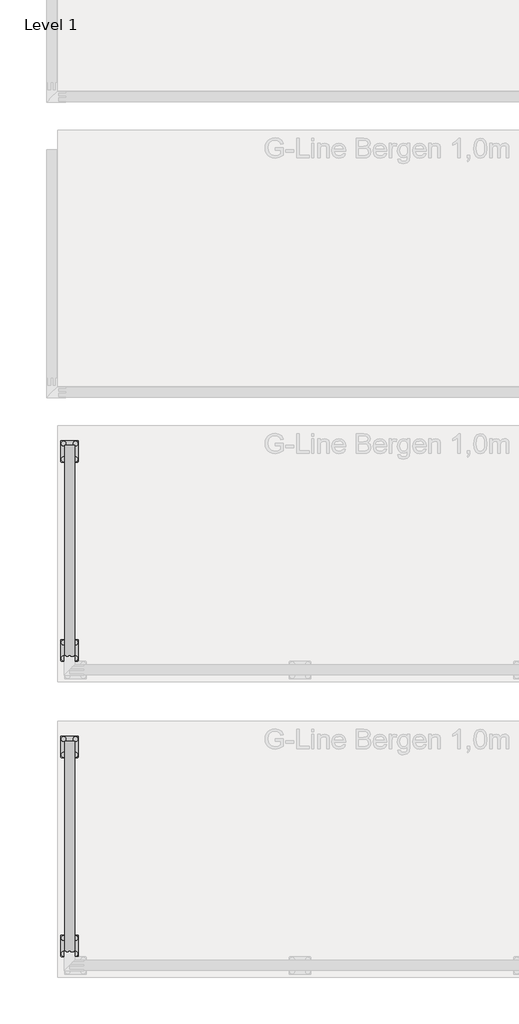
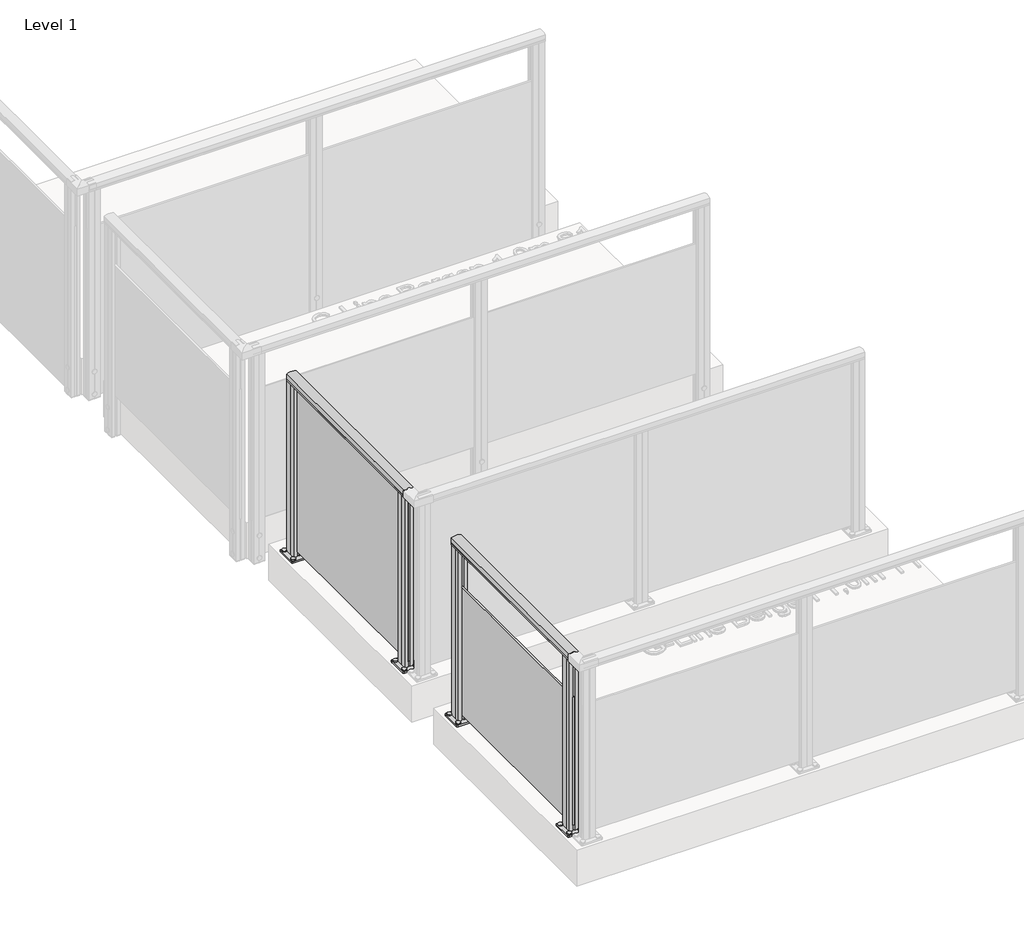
# One storey, part 17 of 66: 2 railings.
"""IFC4 building model written with IfcOpenShell, lengths in millimetres."""

from ifc_helpers import new_model, si_unit, point, frame, frame_2d, origin, origin_with_axes, place, context, project, spatial, polyline, circle_curve, trimmed, segment, composite_curve, outline, extrude, element, save

model = new_model("IFC4")

# Units and contexts
model_context = context("Model", 3, world=origin())
ifc_project = project(units=[si_unit("LENGTHUNIT", "METRE", prefix="MILLI")], contexts=[model_context])

# Site, building, storey
site = spatial("IfcSite", under=ifc_project)
building = spatial("IfcBuilding", under=site)
storey = spatial("IfcBuildingStorey", under=building, Name="Level 1", Elevation=0.0)

# Railings
placement = place(None, origin())
element("IfcRailing", 1, ObjectType="G-Line Bergen 1,0m T1", at=placement, inside=storey, context=model_context, shape_type="SweptSolid", body=[
    extrude(outline(composite_curve([segment(trimmed(circle_curve(frame_2d((942.6785502, 4557.2511266)), 57.3235687), [point((994.1390059, 4582.5060869))], [point((994.1342258, 4531.9864286))], False, "CARTESIAN"), True, "CONTINUOUS"), segment(polyline([(994.1342258, 4531.9864286), (967.0235023, 4531.9864286), (966.4415706, 4532.5683604), (965.8194895, 4531.9462793), (957.2498847, 4531.9462793), (957.2498847, 4533.7512322), (980.4998829, 4533.7512322), (980.4998829, 4580.7462783), (957.2498847, 4580.7462783), (957.2498847, 4582.5060869), (965.9694895, 4582.5060869), (966.5842725, 4581.8913039), (967.1990555, 4582.5060869), (994.1390059, 4582.5060869)]), True, "CONTINUOUS")], self_intersect=False)), frame((0.0, -4351.1184021, 0.0), z_axis=(0.0, 1.0, 0.0), x_axis=(0.0, 0.0, 1.0)), (0.0, 0.0, 1.0), 1070.0),
    extrude(outline(polyline([(4552.1463105, -3281.1184021), (4560.9063105, -3281.1184021), (4560.9063105, -4351.1184021), (4552.1463105, -4351.1184021), (4552.1463105, -3281.1184021)])), frame((0.0, 0.0, 40.0), z_axis=(0.0, 0.0, 1.0), x_axis=(1.0, 0.0, 0.0)), (0.0, 0.0, 1.0), 710.0),
    extrude(outline(composite_curve([segment(trimmed(circle_curve(frame_2d((4526.5263105, -4281.1184021)), 11.9621755), [point((4514.564135, -4281.1184021))], [point((4538.488486, -4281.1184021))], False, "CARTESIAN"), True, "CONTINUOUS"), segment(trimmed(circle_curve(frame_2d((4526.5263105, -4281.1184021)), 11.9621755), [point((4538.488486, -4281.1184021))], [point((4514.564135, -4281.1184021))], False, "CARTESIAN"), True, "CONTINUOUS")], self_intersect=False)), frame((0.0, 0.0, 10.0), z_axis=(0.0, 0.0, 1.0), x_axis=(1.0, 0.0, 0.0)), (0.0, 0.0, 1.0), 5.0),
    extrude(outline(composite_curve([segment(trimmed(circle_curve(frame_2d((4586.5263105, -4281.1184021)), 11.9621755), [point((4574.564135, -4281.1184021))], [point((4598.488486, -4281.1184021))], False, "CARTESIAN"), True, "CONTINUOUS"), segment(trimmed(circle_curve(frame_2d((4586.5263105, -4281.1184021)), 11.9621755), [point((4598.488486, -4281.1184021))], [point((4574.564135, -4281.1184021))], False, "CARTESIAN"), True, "CONTINUOUS")], self_intersect=False)), frame((0.0, 0.0, 10.0), z_axis=(0.0, 0.0, 1.0), x_axis=(1.0, 0.0, 0.0)), (0.0, 0.0, 1.0), 5.0),
    extrude(outline(composite_curve([segment(trimmed(circle_curve(frame_2d((4526.5263105, -4361.1184021)), 11.9621755), [point((4514.564135, -4361.1184021))], [point((4538.488486, -4361.1184021))], False, "CARTESIAN"), True, "CONTINUOUS"), segment(trimmed(circle_curve(frame_2d((4526.5263105, -4361.1184021)), 11.9621755), [point((4538.488486, -4361.1184021))], [point((4514.564135, -4361.1184021))], False, "CARTESIAN"), True, "CONTINUOUS")], self_intersect=False)), frame((0.0, 0.0, 10.0), z_axis=(0.0, 0.0, 1.0), x_axis=(1.0, 0.0, 0.0)), (0.0, 0.0, 1.0), 5.0),
    extrude(outline(composite_curve([segment(trimmed(circle_curve(frame_2d((4586.5263105, -4361.1184021)), 11.9621755), [point((4574.564135, -4361.1184021))], [point((4598.488486, -4361.1184021))], False, "CARTESIAN"), True, "CONTINUOUS"), segment(trimmed(circle_curve(frame_2d((4586.5263105, -4361.1184021)), 11.9621755), [point((4598.488486, -4361.1184021))], [point((4574.564135, -4361.1184021))], False, "CARTESIAN"), True, "CONTINUOUS")], self_intersect=False)), frame((0.0, 0.0, 10.0), z_axis=(0.0, 0.0, 1.0), x_axis=(1.0, 0.0, 0.0)), (0.0, 0.0, 1.0), 5.0),
    extrude(outline(composite_curve([segment(trimmed(circle_curve(frame_2d((4596.5263105, -4271.1184021)), 5.0), [point((4596.5263105, -4266.1184021))], [point((4601.5263105, -4271.1184021))], False, "CARTESIAN"), True, "CONTINUOUS"), segment(polyline([(4601.5263105, -4271.1184021), (4601.5263105, -4371.1184021)]), True, "CONTINUOUS"), segment(trimmed(circle_curve(frame_2d((4596.5263105, -4371.1184021)), 5.0), [point((4601.5263105, -4371.1184021))], [point((4596.5263105, -4376.1184021))], False, "CARTESIAN"), True, "CONTINUOUS"), segment(polyline([(4596.5263105, -4376.1184021), (4516.5263105, -4376.1184021)]), True, "CONTINUOUS"), segment(trimmed(circle_curve(frame_2d((4516.5263105, -4371.1184021)), 5.0), [point((4516.5263105, -4376.1184021))], [point((4511.5263105, -4371.1184021))], False, "CARTESIAN"), True, "CONTINUOUS"), segment(polyline([(4511.5263105, -4371.1184021), (4511.5263105, -4271.1184021)]), True, "CONTINUOUS"), segment(trimmed(circle_curve(frame_2d((4516.5263105, -4271.1184021)), 5.0), [point((4511.5263105, -4271.1184021))], [point((4516.5263105, -4266.1184021))], False, "CARTESIAN"), True, "CONTINUOUS"), segment(polyline([(4516.5263105, -4266.1184021), (4596.5263105, -4266.1184021)]), True, "CONTINUOUS")], self_intersect=False), holes=[composite_curve([segment(trimmed(circle_curve(frame_2d((4586.5263105, -4281.1184021)), 6.25), [point((4580.2763105, -4281.1184021))], [point((4592.7763105, -4281.1184021))], True, "CARTESIAN"), True, "CONTINUOUS"), segment(trimmed(circle_curve(frame_2d((4586.5263105, -4281.1184021)), 6.25), [point((4592.7763105, -4281.1184021))], [point((4580.2763105, -4281.1184021))], True, "CARTESIAN"), True, "CONTINUOUS")], self_intersect=False), composite_curve([segment(trimmed(circle_curve(frame_2d((4526.5263105, -4281.1184021)), 6.25), [point((4520.2763105, -4281.1184021))], [point((4532.7763105, -4281.1184021))], True, "CARTESIAN"), True, "CONTINUOUS"), segment(trimmed(circle_curve(frame_2d((4526.5263105, -4281.1184021)), 6.25), [point((4532.7763105, -4281.1184021))], [point((4520.2763105, -4281.1184021))], True, "CARTESIAN"), True, "CONTINUOUS")], self_intersect=False), composite_curve([segment(trimmed(circle_curve(frame_2d((4526.5263105, -4361.1184021)), 6.25), [point((4520.2763105, -4361.1184021))], [point((4532.7763105, -4361.1184021))], True, "CARTESIAN"), True, "CONTINUOUS"), segment(trimmed(circle_curve(frame_2d((4526.5263105, -4361.1184021)), 6.25), [point((4532.7763105, -4361.1184021))], [point((4520.2763105, -4361.1184021))], True, "CARTESIAN"), True, "CONTINUOUS")], self_intersect=False), composite_curve([segment(trimmed(circle_curve(frame_2d((4586.5263105, -4361.1184021)), 6.25), [point((4580.2763105, -4361.1184021))], [point((4592.7763105, -4361.1184021))], True, "CARTESIAN"), True, "CONTINUOUS"), segment(trimmed(circle_curve(frame_2d((4586.5263105, -4361.1184021)), 6.25), [point((4592.7763105, -4361.1184021))], [point((4580.2763105, -4361.1184021))], True, "CARTESIAN"), True, "CONTINUOUS")], self_intersect=False)]), origin_with_axes(), (0.0, 0.0, 1.0), 10.0),
    extrude(outline(polyline([(4552.1804485, -4351.116809), (4534.0354487, -4351.1194812), (4534.0311828, -4322.1524942), (4535.0593241, -4321.12405), (4534.0709345, -4320.1359515), (4534.0666613, -4291.119476), (4552.1716124, -4291.1168097), (4552.1741896, -4308.6168095), (4560.9341895, -4308.6155194), (4560.9316123, -4291.1155196), (4579.0266121, -4291.1128548), (4579.030878, -4320.0798417), (4578.1125457, -4321.1177096), (4578.9909678, -4321.995873), (4578.9952559, -4351.11286), (4560.9404484, -4351.1155189), (4560.9378712, -4333.6155191), (4552.1778713, -4333.6168092), (4552.1804485, -4351.116809)]), holes=[polyline([(4577.0323262, -4312.3191871), (4536.0297347, -4312.3191871), (4536.0297347, -4329.9131488), (4577.0323262, -4329.9131488), (4577.0323262, -4312.3191871)]), polyline([(4550.17444, -4293.1191873), (4536.0269071, -4293.1191873), (4536.0269071, -4310.317104), (4550.17444, -4310.317104), (4550.17444, -4293.1191873)]), polyline([(4577.0323262, -4293.115225), (4562.9319068, -4293.115225), (4562.9319068, -4310.3131487), (4577.0323262, -4310.3131487), (4577.0323262, -4293.115225)]), polyline([(4550.180154, -4331.9191868), (4536.0326211, -4331.9191868), (4536.0326211, -4349.1171035), (4550.180154, -4349.1171035), (4550.180154, -4331.9191868)]), polyline([(4577.0851537, -4331.9152246), (4562.9376209, -4331.9152246), (4562.9376209, -4349.1131413), (4577.0851537, -4349.1131413), (4577.0851537, -4331.9152246)])]), frame((0.0, 0.0, 10.0), z_axis=(0.0, 0.0, 1.0), x_axis=(1.0, 0.0, 0.0)), (0.0, 0.0, 1.0), 971.0),
    extrude(outline(composite_curve([segment(trimmed(circle_curve(frame_2d((4526.5263105, -3271.1184021)), 11.9621755), [point((4514.564135, -3271.1184021))], [point((4538.488486, -3271.1184021))], False, "CARTESIAN"), True, "CONTINUOUS"), segment(trimmed(circle_curve(frame_2d((4526.5263105, -3271.1184021)), 11.9621755), [point((4538.488486, -3271.1184021))], [point((4514.564135, -3271.1184021))], False, "CARTESIAN"), True, "CONTINUOUS")], self_intersect=False)), frame((0.0, 0.0, 10.0), z_axis=(0.0, 0.0, 1.0), x_axis=(1.0, 0.0, 0.0)), (0.0, 0.0, 1.0), 5.0),
    extrude(outline(composite_curve([segment(trimmed(circle_curve(frame_2d((4586.5263105, -3271.1184021)), 11.9621755), [point((4574.564135, -3271.1184021))], [point((4598.488486, -3271.1184021))], False, "CARTESIAN"), True, "CONTINUOUS"), segment(trimmed(circle_curve(frame_2d((4586.5263105, -3271.1184021)), 11.9621755), [point((4598.488486, -3271.1184021))], [point((4574.564135, -3271.1184021))], False, "CARTESIAN"), True, "CONTINUOUS")], self_intersect=False)), frame((0.0, 0.0, 10.0), z_axis=(0.0, 0.0, 1.0), x_axis=(1.0, 0.0, 0.0)), (0.0, 0.0, 1.0), 5.0),
    extrude(outline(composite_curve([segment(trimmed(circle_curve(frame_2d((4526.5263105, -3351.1184021)), 11.9621755), [point((4514.564135, -3351.1184021))], [point((4538.488486, -3351.1184021))], False, "CARTESIAN"), True, "CONTINUOUS"), segment(trimmed(circle_curve(frame_2d((4526.5263105, -3351.1184021)), 11.9621755), [point((4538.488486, -3351.1184021))], [point((4514.564135, -3351.1184021))], False, "CARTESIAN"), True, "CONTINUOUS")], self_intersect=False)), frame((0.0, 0.0, 10.0), z_axis=(0.0, 0.0, 1.0), x_axis=(1.0, 0.0, 0.0)), (0.0, 0.0, 1.0), 5.0),
    extrude(outline(composite_curve([segment(trimmed(circle_curve(frame_2d((4586.5263105, -3351.1184021)), 11.9621755), [point((4574.564135, -3351.1184021))], [point((4598.488486, -3351.1184021))], False, "CARTESIAN"), True, "CONTINUOUS"), segment(trimmed(circle_curve(frame_2d((4586.5263105, -3351.1184021)), 11.9621755), [point((4598.488486, -3351.1184021))], [point((4574.564135, -3351.1184021))], False, "CARTESIAN"), True, "CONTINUOUS")], self_intersect=False)), frame((0.0, 0.0, 10.0), z_axis=(0.0, 0.0, 1.0), x_axis=(1.0, 0.0, 0.0)), (0.0, 0.0, 1.0), 5.0),
    extrude(outline(composite_curve([segment(trimmed(circle_curve(frame_2d((4596.5263105, -3261.1184021)), 5.0), [point((4596.5263105, -3256.1184021))], [point((4601.5263105, -3261.1184021))], False, "CARTESIAN"), True, "CONTINUOUS"), segment(polyline([(4601.5263105, -3261.1184021), (4601.5263105, -3361.1184021)]), True, "CONTINUOUS"), segment(trimmed(circle_curve(frame_2d((4596.5263105, -3361.1184021)), 5.0), [point((4601.5263105, -3361.1184021))], [point((4596.5263105, -3366.1184021))], False, "CARTESIAN"), True, "CONTINUOUS"), segment(polyline([(4596.5263105, -3366.1184021), (4516.5263105, -3366.1184021)]), True, "CONTINUOUS"), segment(trimmed(circle_curve(frame_2d((4516.5263105, -3361.1184021)), 5.0), [point((4516.5263105, -3366.1184021))], [point((4511.5263105, -3361.1184021))], False, "CARTESIAN"), True, "CONTINUOUS"), segment(polyline([(4511.5263105, -3361.1184021), (4511.5263105, -3261.1184021)]), True, "CONTINUOUS"), segment(trimmed(circle_curve(frame_2d((4516.5263105, -3261.1184021)), 5.0), [point((4511.5263105, -3261.1184021))], [point((4516.5263105, -3256.1184021))], False, "CARTESIAN"), True, "CONTINUOUS"), segment(polyline([(4516.5263105, -3256.1184021), (4596.5263105, -3256.1184021)]), True, "CONTINUOUS")], self_intersect=False), holes=[composite_curve([segment(trimmed(circle_curve(frame_2d((4586.5263105, -3271.1184021)), 6.25), [point((4580.2763105, -3271.1184021))], [point((4592.7763105, -3271.1184021))], True, "CARTESIAN"), True, "CONTINUOUS"), segment(trimmed(circle_curve(frame_2d((4586.5263105, -3271.1184021)), 6.25), [point((4592.7763105, -3271.1184021))], [point((4580.2763105, -3271.1184021))], True, "CARTESIAN"), True, "CONTINUOUS")], self_intersect=False), composite_curve([segment(trimmed(circle_curve(frame_2d((4526.5263105, -3271.1184021)), 6.25), [point((4520.2763105, -3271.1184021))], [point((4532.7763105, -3271.1184021))], True, "CARTESIAN"), True, "CONTINUOUS"), segment(trimmed(circle_curve(frame_2d((4526.5263105, -3271.1184021)), 6.25), [point((4532.7763105, -3271.1184021))], [point((4520.2763105, -3271.1184021))], True, "CARTESIAN"), True, "CONTINUOUS")], self_intersect=False), composite_curve([segment(trimmed(circle_curve(frame_2d((4526.5263105, -3351.1184021)), 6.25), [point((4520.2763105, -3351.1184021))], [point((4532.7763105, -3351.1184021))], True, "CARTESIAN"), True, "CONTINUOUS"), segment(trimmed(circle_curve(frame_2d((4526.5263105, -3351.1184021)), 6.25), [point((4532.7763105, -3351.1184021))], [point((4520.2763105, -3351.1184021))], True, "CARTESIAN"), True, "CONTINUOUS")], self_intersect=False), composite_curve([segment(trimmed(circle_curve(frame_2d((4586.5263105, -3351.1184021)), 6.25), [point((4580.2763105, -3351.1184021))], [point((4592.7763105, -3351.1184021))], True, "CARTESIAN"), True, "CONTINUOUS"), segment(trimmed(circle_curve(frame_2d((4586.5263105, -3351.1184021)), 6.25), [point((4592.7763105, -3351.1184021))], [point((4580.2763105, -3351.1184021))], True, "CARTESIAN"), True, "CONTINUOUS")], self_intersect=False)]), origin_with_axes(), (0.0, 0.0, 1.0), 10.0),
    extrude(outline(polyline([(4552.1804485, -3341.116809), (4534.0354487, -3341.1194812), (4534.0311828, -3312.1524942), (4535.0593241, -3311.12405), (4534.0709345, -3310.1359515), (4534.0666613, -3281.119476), (4552.1716124, -3281.1168097), (4552.1741896, -3298.6168095), (4560.9341895, -3298.6155194), (4560.9316123, -3281.1155196), (4579.0266121, -3281.1128548), (4579.030878, -3310.0798417), (4578.1125457, -3311.1177096), (4578.9909678, -3311.995873), (4578.9952559, -3341.11286), (4560.9404484, -3341.1155189), (4560.9378712, -3323.6155191), (4552.1778713, -3323.6168092), (4552.1804485, -3341.116809)]), holes=[polyline([(4577.0323262, -3302.3191871), (4536.0297347, -3302.3191871), (4536.0297347, -3319.9131488), (4577.0323262, -3319.9131488), (4577.0323262, -3302.3191871)]), polyline([(4550.17444, -3283.1191873), (4536.0269071, -3283.1191873), (4536.0269071, -3300.317104), (4550.17444, -3300.317104), (4550.17444, -3283.1191873)]), polyline([(4577.0323262, -3283.115225), (4562.9319068, -3283.115225), (4562.9319068, -3300.3131487), (4577.0323262, -3300.3131487), (4577.0323262, -3283.115225)]), polyline([(4550.180154, -3321.9191868), (4536.0326211, -3321.9191868), (4536.0326211, -3339.1171035), (4550.180154, -3339.1171035), (4550.180154, -3321.9191868)]), polyline([(4577.0851537, -3321.9152246), (4562.9376209, -3321.9152246), (4562.9376209, -3339.1131413), (4577.0851537, -3339.1131413), (4577.0851537, -3321.9152246)])]), frame((0.0, 0.0, 10.0), z_axis=(0.0, 0.0, 1.0), x_axis=(1.0, 0.0, 0.0)), (0.0, 0.0, 1.0), 971.0),
])
element("IfcRailing", 2, ObjectType="G-Line Bergen 1,0m T3", at=placement, inside=storey, context=model_context, shape_type="SweptSolid", body=[
    extrude(outline(composite_curve([segment(trimmed(circle_curve(frame_2d((942.6785502, 4557.2511266)), 57.3235687), [point((994.1390059, 4582.5060869))], [point((994.1342258, 4531.9864286))], False, "CARTESIAN"), True, "CONTINUOUS"), segment(polyline([(994.1342258, 4531.9864286), (967.0235023, 4531.9864286), (966.4415706, 4532.5683604), (965.8194895, 4531.9462793), (957.2498847, 4531.9462793), (957.2498847, 4533.7512322), (980.4998829, 4533.7512322), (980.4998829, 4580.7462783), (957.2498847, 4580.7462783), (957.2498847, 4582.5060869), (965.9694895, 4582.5060869), (966.5842725, 4581.8913039), (967.1990555, 4582.5060869), (994.1390059, 4582.5060869)]), True, "CONTINUOUS")], self_intersect=False)), frame((0.0, -2851.1184021, 0.0), z_axis=(0.0, 1.0, 0.0), x_axis=(0.0, 0.0, 1.0)), (0.0, 0.0, 1.0), 1070.0),
    extrude(outline(polyline([(4552.1463105, -1781.1184021), (4560.9063105, -1781.1184021), (4560.9063105, -2851.1184021), (4552.1463105, -2851.1184021), (4552.1463105, -1781.1184021)])), frame((0.0, 0.0, 40.0), z_axis=(0.0, 0.0, 1.0), x_axis=(1.0, 0.0, 0.0)), (0.0, 0.0, 1.0), 940.0),
    extrude(outline(composite_curve([segment(trimmed(circle_curve(frame_2d((4526.5263105, -2781.1184021)), 11.9621755), [point((4514.564135, -2781.1184021))], [point((4538.488486, -2781.1184021))], False, "CARTESIAN"), True, "CONTINUOUS"), segment(trimmed(circle_curve(frame_2d((4526.5263105, -2781.1184021)), 11.9621755), [point((4538.488486, -2781.1184021))], [point((4514.564135, -2781.1184021))], False, "CARTESIAN"), True, "CONTINUOUS")], self_intersect=False)), frame((0.0, 0.0, 10.0), z_axis=(0.0, 0.0, 1.0), x_axis=(1.0, 0.0, 0.0)), (0.0, 0.0, 1.0), 5.0),
    extrude(outline(composite_curve([segment(trimmed(circle_curve(frame_2d((4586.5263105, -2781.1184021)), 11.9621755), [point((4574.564135, -2781.1184021))], [point((4598.488486, -2781.1184021))], False, "CARTESIAN"), True, "CONTINUOUS"), segment(trimmed(circle_curve(frame_2d((4586.5263105, -2781.1184021)), 11.9621755), [point((4598.488486, -2781.1184021))], [point((4574.564135, -2781.1184021))], False, "CARTESIAN"), True, "CONTINUOUS")], self_intersect=False)), frame((0.0, 0.0, 10.0), z_axis=(0.0, 0.0, 1.0), x_axis=(1.0, 0.0, 0.0)), (0.0, 0.0, 1.0), 5.0),
    extrude(outline(composite_curve([segment(trimmed(circle_curve(frame_2d((4526.5263105, -2861.1184021)), 11.9621755), [point((4514.564135, -2861.1184021))], [point((4538.488486, -2861.1184021))], False, "CARTESIAN"), True, "CONTINUOUS"), segment(trimmed(circle_curve(frame_2d((4526.5263105, -2861.1184021)), 11.9621755), [point((4538.488486, -2861.1184021))], [point((4514.564135, -2861.1184021))], False, "CARTESIAN"), True, "CONTINUOUS")], self_intersect=False)), frame((0.0, 0.0, 10.0), z_axis=(0.0, 0.0, 1.0), x_axis=(1.0, 0.0, 0.0)), (0.0, 0.0, 1.0), 5.0),
    extrude(outline(composite_curve([segment(trimmed(circle_curve(frame_2d((4586.5263105, -2861.1184021)), 11.9621755), [point((4574.564135, -2861.1184021))], [point((4598.488486, -2861.1184021))], False, "CARTESIAN"), True, "CONTINUOUS"), segment(trimmed(circle_curve(frame_2d((4586.5263105, -2861.1184021)), 11.9621755), [point((4598.488486, -2861.1184021))], [point((4574.564135, -2861.1184021))], False, "CARTESIAN"), True, "CONTINUOUS")], self_intersect=False)), frame((0.0, 0.0, 10.0), z_axis=(0.0, 0.0, 1.0), x_axis=(1.0, 0.0, 0.0)), (0.0, 0.0, 1.0), 5.0),
    extrude(outline(composite_curve([segment(trimmed(circle_curve(frame_2d((4596.5263105, -2771.1184021)), 5.0), [point((4596.5263105, -2766.1184021))], [point((4601.5263105, -2771.1184021))], False, "CARTESIAN"), True, "CONTINUOUS"), segment(polyline([(4601.5263105, -2771.1184021), (4601.5263105, -2871.1184021)]), True, "CONTINUOUS"), segment(trimmed(circle_curve(frame_2d((4596.5263105, -2871.1184021)), 5.0), [point((4601.5263105, -2871.1184021))], [point((4596.5263105, -2876.1184021))], False, "CARTESIAN"), True, "CONTINUOUS"), segment(polyline([(4596.5263105, -2876.1184021), (4516.5263105, -2876.1184021)]), True, "CONTINUOUS"), segment(trimmed(circle_curve(frame_2d((4516.5263105, -2871.1184021)), 5.0), [point((4516.5263105, -2876.1184021))], [point((4511.5263105, -2871.1184021))], False, "CARTESIAN"), True, "CONTINUOUS"), segment(polyline([(4511.5263105, -2871.1184021), (4511.5263105, -2771.1184021)]), True, "CONTINUOUS"), segment(trimmed(circle_curve(frame_2d((4516.5263105, -2771.1184021)), 5.0), [point((4511.5263105, -2771.1184021))], [point((4516.5263105, -2766.1184021))], False, "CARTESIAN"), True, "CONTINUOUS"), segment(polyline([(4516.5263105, -2766.1184021), (4596.5263105, -2766.1184021)]), True, "CONTINUOUS")], self_intersect=False), holes=[composite_curve([segment(trimmed(circle_curve(frame_2d((4586.5263105, -2781.1184021)), 6.25), [point((4580.2763105, -2781.1184021))], [point((4592.7763105, -2781.1184021))], True, "CARTESIAN"), True, "CONTINUOUS"), segment(trimmed(circle_curve(frame_2d((4586.5263105, -2781.1184021)), 6.25), [point((4592.7763105, -2781.1184021))], [point((4580.2763105, -2781.1184021))], True, "CARTESIAN"), True, "CONTINUOUS")], self_intersect=False), composite_curve([segment(trimmed(circle_curve(frame_2d((4526.5263105, -2781.1184021)), 6.25), [point((4520.2763105, -2781.1184021))], [point((4532.7763105, -2781.1184021))], True, "CARTESIAN"), True, "CONTINUOUS"), segment(trimmed(circle_curve(frame_2d((4526.5263105, -2781.1184021)), 6.25), [point((4532.7763105, -2781.1184021))], [point((4520.2763105, -2781.1184021))], True, "CARTESIAN"), True, "CONTINUOUS")], self_intersect=False), composite_curve([segment(trimmed(circle_curve(frame_2d((4526.5263105, -2861.1184021)), 6.25), [point((4520.2763105, -2861.1184021))], [point((4532.7763105, -2861.1184021))], True, "CARTESIAN"), True, "CONTINUOUS"), segment(trimmed(circle_curve(frame_2d((4526.5263105, -2861.1184021)), 6.25), [point((4532.7763105, -2861.1184021))], [point((4520.2763105, -2861.1184021))], True, "CARTESIAN"), True, "CONTINUOUS")], self_intersect=False), composite_curve([segment(trimmed(circle_curve(frame_2d((4586.5263105, -2861.1184021)), 6.25), [point((4580.2763105, -2861.1184021))], [point((4592.7763105, -2861.1184021))], True, "CARTESIAN"), True, "CONTINUOUS"), segment(trimmed(circle_curve(frame_2d((4586.5263105, -2861.1184021)), 6.25), [point((4592.7763105, -2861.1184021))], [point((4580.2763105, -2861.1184021))], True, "CARTESIAN"), True, "CONTINUOUS")], self_intersect=False)]), origin_with_axes(), (0.0, 0.0, 1.0), 10.0),
    extrude(outline(polyline([(4552.1804485, -2851.116809), (4534.0354487, -2851.1194812), (4534.0311828, -2822.1524942), (4535.0593241, -2821.12405), (4534.0709345, -2820.1359515), (4534.0666613, -2791.119476), (4552.1716124, -2791.1168097), (4552.1741896, -2808.6168095), (4560.9341895, -2808.6155194), (4560.9316123, -2791.1155196), (4579.0266121, -2791.1128548), (4579.030878, -2820.0798417), (4578.1125457, -2821.1177096), (4578.9909678, -2821.995873), (4578.9952559, -2851.11286), (4560.9404484, -2851.1155189), (4560.9378712, -2833.6155191), (4552.1778713, -2833.6168092), (4552.1804485, -2851.116809)]), holes=[polyline([(4577.0323262, -2812.3191871), (4536.0297347, -2812.3191871), (4536.0297347, -2829.9131488), (4577.0323262, -2829.9131488), (4577.0323262, -2812.3191871)]), polyline([(4550.17444, -2793.1191873), (4536.0269071, -2793.1191873), (4536.0269071, -2810.317104), (4550.17444, -2810.317104), (4550.17444, -2793.1191873)]), polyline([(4577.0323262, -2793.115225), (4562.9319068, -2793.115225), (4562.9319068, -2810.3131487), (4577.0323262, -2810.3131487), (4577.0323262, -2793.115225)]), polyline([(4550.180154, -2831.9191868), (4536.0326211, -2831.9191868), (4536.0326211, -2849.1171035), (4550.180154, -2849.1171035), (4550.180154, -2831.9191868)]), polyline([(4577.0851537, -2831.9152246), (4562.9376209, -2831.9152246), (4562.9376209, -2849.1131413), (4577.0851537, -2849.1131413), (4577.0851537, -2831.9152246)])]), frame((0.0, 0.0, 10.0), z_axis=(0.0, 0.0, 1.0), x_axis=(1.0, 0.0, 0.0)), (0.0, 0.0, 1.0), 971.0),
    extrude(outline(composite_curve([segment(trimmed(circle_curve(frame_2d((4526.5263105, -1771.1184021)), 11.9621755), [point((4514.564135, -1771.1184021))], [point((4538.488486, -1771.1184021))], False, "CARTESIAN"), True, "CONTINUOUS"), segment(trimmed(circle_curve(frame_2d((4526.5263105, -1771.1184021)), 11.9621755), [point((4538.488486, -1771.1184021))], [point((4514.564135, -1771.1184021))], False, "CARTESIAN"), True, "CONTINUOUS")], self_intersect=False)), frame((0.0, 0.0, 10.0), z_axis=(0.0, 0.0, 1.0), x_axis=(1.0, 0.0, 0.0)), (0.0, 0.0, 1.0), 5.0),
    extrude(outline(composite_curve([segment(trimmed(circle_curve(frame_2d((4586.5263105, -1771.1184021)), 11.9621755), [point((4574.564135, -1771.1184021))], [point((4598.488486, -1771.1184021))], False, "CARTESIAN"), True, "CONTINUOUS"), segment(trimmed(circle_curve(frame_2d((4586.5263105, -1771.1184021)), 11.9621755), [point((4598.488486, -1771.1184021))], [point((4574.564135, -1771.1184021))], False, "CARTESIAN"), True, "CONTINUOUS")], self_intersect=False)), frame((0.0, 0.0, 10.0), z_axis=(0.0, 0.0, 1.0), x_axis=(1.0, 0.0, 0.0)), (0.0, 0.0, 1.0), 5.0),
    extrude(outline(composite_curve([segment(trimmed(circle_curve(frame_2d((4526.5263105, -1851.1184021)), 11.9621755), [point((4514.564135, -1851.1184021))], [point((4538.488486, -1851.1184021))], False, "CARTESIAN"), True, "CONTINUOUS"), segment(trimmed(circle_curve(frame_2d((4526.5263105, -1851.1184021)), 11.9621755), [point((4538.488486, -1851.1184021))], [point((4514.564135, -1851.1184021))], False, "CARTESIAN"), True, "CONTINUOUS")], self_intersect=False)), frame((0.0, 0.0, 10.0), z_axis=(0.0, 0.0, 1.0), x_axis=(1.0, 0.0, 0.0)), (0.0, 0.0, 1.0), 5.0),
    extrude(outline(composite_curve([segment(trimmed(circle_curve(frame_2d((4586.5263105, -1851.1184021)), 11.9621755), [point((4574.564135, -1851.1184021))], [point((4598.488486, -1851.1184021))], False, "CARTESIAN"), True, "CONTINUOUS"), segment(trimmed(circle_curve(frame_2d((4586.5263105, -1851.1184021)), 11.9621755), [point((4598.488486, -1851.1184021))], [point((4574.564135, -1851.1184021))], False, "CARTESIAN"), True, "CONTINUOUS")], self_intersect=False)), frame((0.0, 0.0, 10.0), z_axis=(0.0, 0.0, 1.0), x_axis=(1.0, 0.0, 0.0)), (0.0, 0.0, 1.0), 5.0),
    extrude(outline(composite_curve([segment(trimmed(circle_curve(frame_2d((4596.5263105, -1761.1184021)), 5.0), [point((4596.5263105, -1756.1184021))], [point((4601.5263105, -1761.1184021))], False, "CARTESIAN"), True, "CONTINUOUS"), segment(polyline([(4601.5263105, -1761.1184021), (4601.5263105, -1861.1184021)]), True, "CONTINUOUS"), segment(trimmed(circle_curve(frame_2d((4596.5263105, -1861.1184021)), 5.0), [point((4601.5263105, -1861.1184021))], [point((4596.5263105, -1866.1184021))], False, "CARTESIAN"), True, "CONTINUOUS"), segment(polyline([(4596.5263105, -1866.1184021), (4516.5263105, -1866.1184021)]), True, "CONTINUOUS"), segment(trimmed(circle_curve(frame_2d((4516.5263105, -1861.1184021)), 5.0), [point((4516.5263105, -1866.1184021))], [point((4511.5263105, -1861.1184021))], False, "CARTESIAN"), True, "CONTINUOUS"), segment(polyline([(4511.5263105, -1861.1184021), (4511.5263105, -1761.1184021)]), True, "CONTINUOUS"), segment(trimmed(circle_curve(frame_2d((4516.5263105, -1761.1184021)), 5.0), [point((4511.5263105, -1761.1184021))], [point((4516.5263105, -1756.1184021))], False, "CARTESIAN"), True, "CONTINUOUS"), segment(polyline([(4516.5263105, -1756.1184021), (4596.5263105, -1756.1184021)]), True, "CONTINUOUS")], self_intersect=False), holes=[composite_curve([segment(trimmed(circle_curve(frame_2d((4586.5263105, -1771.1184021)), 6.25), [point((4580.2763105, -1771.1184021))], [point((4592.7763105, -1771.1184021))], True, "CARTESIAN"), True, "CONTINUOUS"), segment(trimmed(circle_curve(frame_2d((4586.5263105, -1771.1184021)), 6.25), [point((4592.7763105, -1771.1184021))], [point((4580.2763105, -1771.1184021))], True, "CARTESIAN"), True, "CONTINUOUS")], self_intersect=False), composite_curve([segment(trimmed(circle_curve(frame_2d((4526.5263105, -1771.1184021)), 6.25), [point((4520.2763105, -1771.1184021))], [point((4532.7763105, -1771.1184021))], True, "CARTESIAN"), True, "CONTINUOUS"), segment(trimmed(circle_curve(frame_2d((4526.5263105, -1771.1184021)), 6.25), [point((4532.7763105, -1771.1184021))], [point((4520.2763105, -1771.1184021))], True, "CARTESIAN"), True, "CONTINUOUS")], self_intersect=False), composite_curve([segment(trimmed(circle_curve(frame_2d((4526.5263105, -1851.1184021)), 6.25), [point((4520.2763105, -1851.1184021))], [point((4532.7763105, -1851.1184021))], True, "CARTESIAN"), True, "CONTINUOUS"), segment(trimmed(circle_curve(frame_2d((4526.5263105, -1851.1184021)), 6.25), [point((4532.7763105, -1851.1184021))], [point((4520.2763105, -1851.1184021))], True, "CARTESIAN"), True, "CONTINUOUS")], self_intersect=False), composite_curve([segment(trimmed(circle_curve(frame_2d((4586.5263105, -1851.1184021)), 6.25), [point((4580.2763105, -1851.1184021))], [point((4592.7763105, -1851.1184021))], True, "CARTESIAN"), True, "CONTINUOUS"), segment(trimmed(circle_curve(frame_2d((4586.5263105, -1851.1184021)), 6.25), [point((4592.7763105, -1851.1184021))], [point((4580.2763105, -1851.1184021))], True, "CARTESIAN"), True, "CONTINUOUS")], self_intersect=False)]), origin_with_axes(), (0.0, 0.0, 1.0), 10.0),
    extrude(outline(polyline([(4552.1804485, -1841.116809), (4534.0354487, -1841.1194812), (4534.0311828, -1812.1524942), (4535.0593241, -1811.12405), (4534.0709345, -1810.1359515), (4534.0666613, -1781.119476), (4552.1716124, -1781.1168097), (4552.1741896, -1798.6168095), (4560.9341895, -1798.6155194), (4560.9316123, -1781.1155196), (4579.0266121, -1781.1128548), (4579.030878, -1810.0798417), (4578.1125457, -1811.1177096), (4578.9909678, -1811.995873), (4578.9952559, -1841.11286), (4560.9404484, -1841.1155189), (4560.9378712, -1823.6155191), (4552.1778713, -1823.6168092), (4552.1804485, -1841.116809)]), holes=[polyline([(4577.0323262, -1802.3191871), (4536.0297347, -1802.3191871), (4536.0297347, -1819.9131488), (4577.0323262, -1819.9131488), (4577.0323262, -1802.3191871)]), polyline([(4550.17444, -1783.1191873), (4536.0269071, -1783.1191873), (4536.0269071, -1800.317104), (4550.17444, -1800.317104), (4550.17444, -1783.1191873)]), polyline([(4577.0323262, -1783.115225), (4562.9319068, -1783.115225), (4562.9319068, -1800.3131487), (4577.0323262, -1800.3131487), (4577.0323262, -1783.115225)]), polyline([(4550.180154, -1821.9191868), (4536.0326211, -1821.9191868), (4536.0326211, -1839.1171035), (4550.180154, -1839.1171035), (4550.180154, -1821.9191868)]), polyline([(4577.0851537, -1821.9152246), (4562.9376209, -1821.9152246), (4562.9376209, -1839.1131413), (4577.0851537, -1839.1131413), (4577.0851537, -1821.9152246)])]), frame((0.0, 0.0, 10.0), z_axis=(0.0, 0.0, 1.0), x_axis=(1.0, 0.0, 0.0)), (0.0, 0.0, 1.0), 971.0),
])

save(model, "model.ifc")
